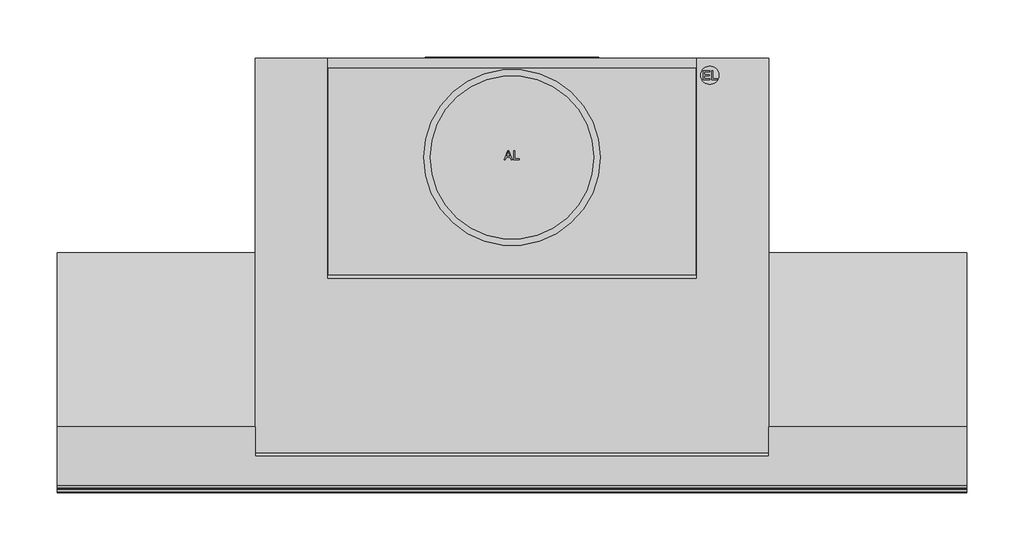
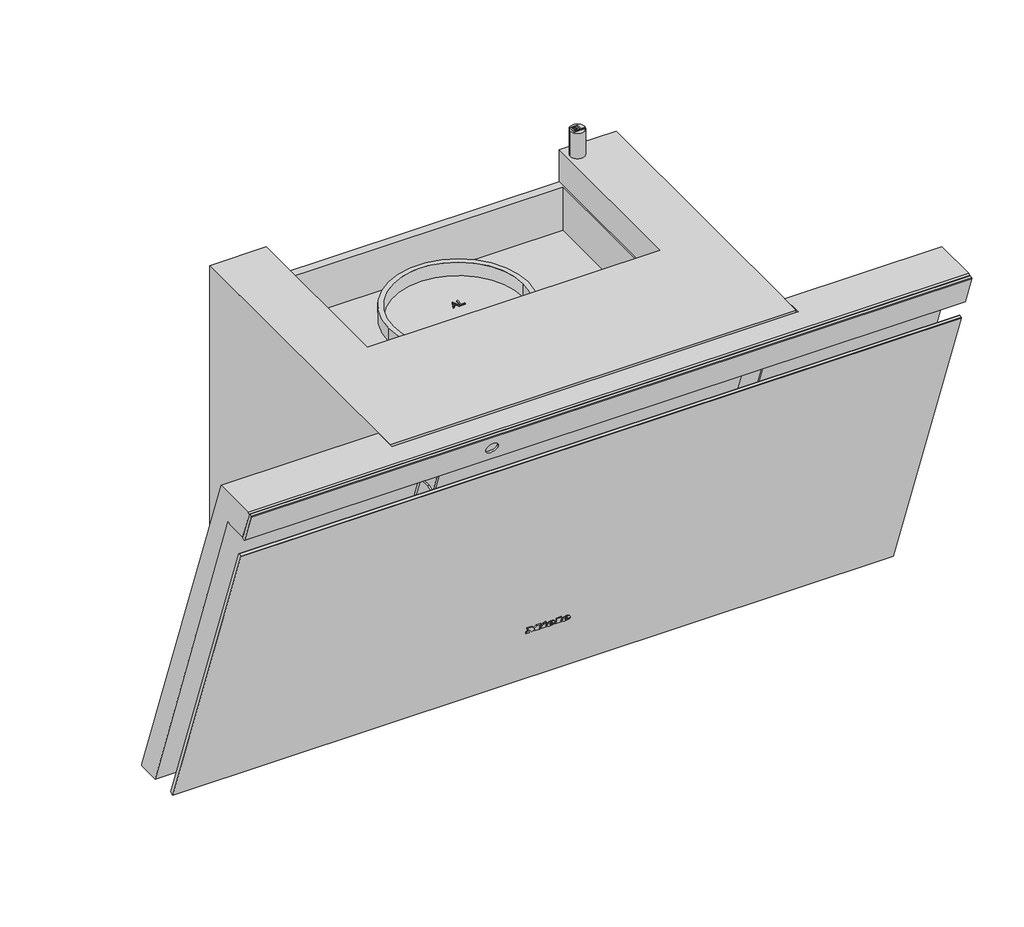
# Not in any storey: 1 proxy.
"""IFC4 building model written with IfcOpenShell, lengths in millimetres."""

from ifc_helpers import new_model, si_unit, origin, place, context, project, spatial, transform, mapped, element, save
from components import specialty_equipment_5d2aa54a

model = new_model("IFC4")

# Units and contexts
model_context = context("Model", 3, world=origin())
ifc_project = project(units=[si_unit("LENGTHUNIT", "METRE", prefix="MILLI")], contexts=[model_context])

# Site, building
site = spatial("IfcSite", under=ifc_project)
building = spatial("IfcBuilding", under=site)

# Proxy
placement = place(None, origin())
specialty_equipment_shape = specialty_equipment_5d2aa54a(model_context)
element("IfcBuildingElementProxy", 1, Name="12534020_D_DAH4870_OBSW : 28H4870B_D_12534020_DAH4870_OBSW", ObjectType="12534020_D_DAH4870_OBSW : 28H4870B_D_12534020_DAH4870_OBSW", at=placement, inside=building, context=model_context, shape_type="MappedRepresentation", body=[
    mapped(specialty_equipment_shape, transform((0.0, 0.0, 0.0), x_axis=(1.0, 0.0, 0.0), y_axis=(0.0, 1.0, 0.0), z_axis=(0.0, 0.0, 1.0))),
])

save(model, "model.ifc")
